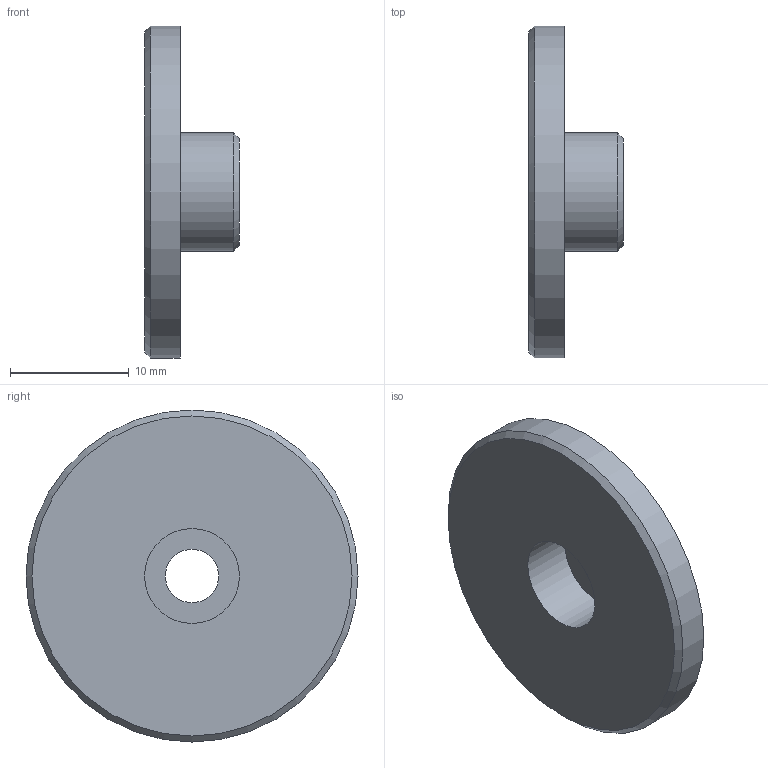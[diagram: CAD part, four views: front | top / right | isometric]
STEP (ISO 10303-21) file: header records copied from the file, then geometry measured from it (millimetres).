
FILE_DESCRIPTION(/* description */ (''),/* implementation_level */ '2;1');
FILE_NAME(/* name */ '',/* time_stamp */ '2025-11-19T16:41:14+09:00',/* author */ ('jhkim'),/* organization */ (''),/* preprocessor_version */ 'ST-DEVELOPER v20.1',/* originating_system */ 'Autodesk Inventor 2026',/* authorisation */ '');
FILE_SCHEMA (('AUTOMOTIVE_DESIGN { 1 0 10303 214 3 1 1 }'));
Length unit declared in the file: millimetre
Products named in the file (1): 엔드 캡
Bounding box: 8 x 28 x 28 mm (x, y, z)
Volume: 1946.9 mm3; surface area: 1746.5 mm2
Topology: 1 solids, 1 shells, 10 faces, 18 edges, 12 vertices
Faces by surface type: plane 4, cylinder 4, cone 2
Full cylindrical faces by diameter (mm): 4.5 x1, 8 x1, 10 x1, 28 x1
Entity records: 301 total; most frequent: DIRECTION 52, CARTESIAN_POINT 41, ORIENTED_EDGE 36, AXIS2_PLACEMENT_3D 23, EDGE_CURVE 18, EDGE_LOOP 14, CIRCLE 12, VERTEX_POINT 12
